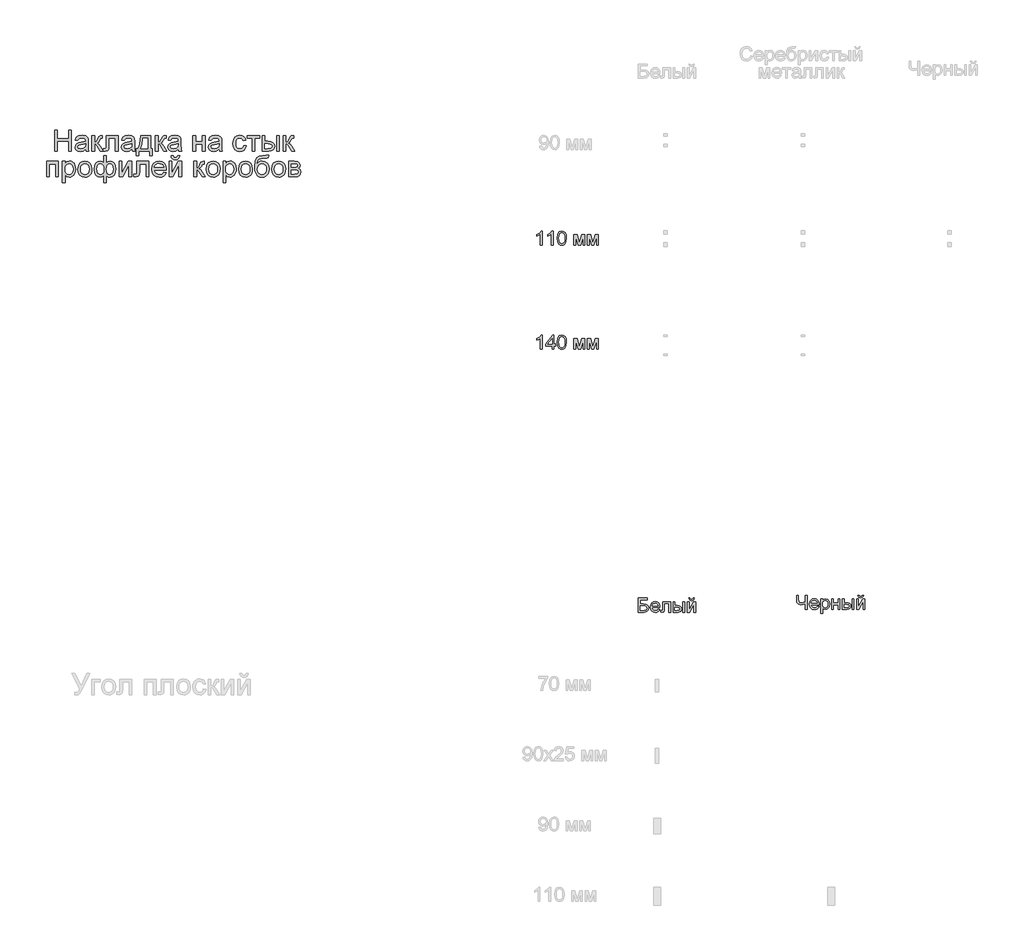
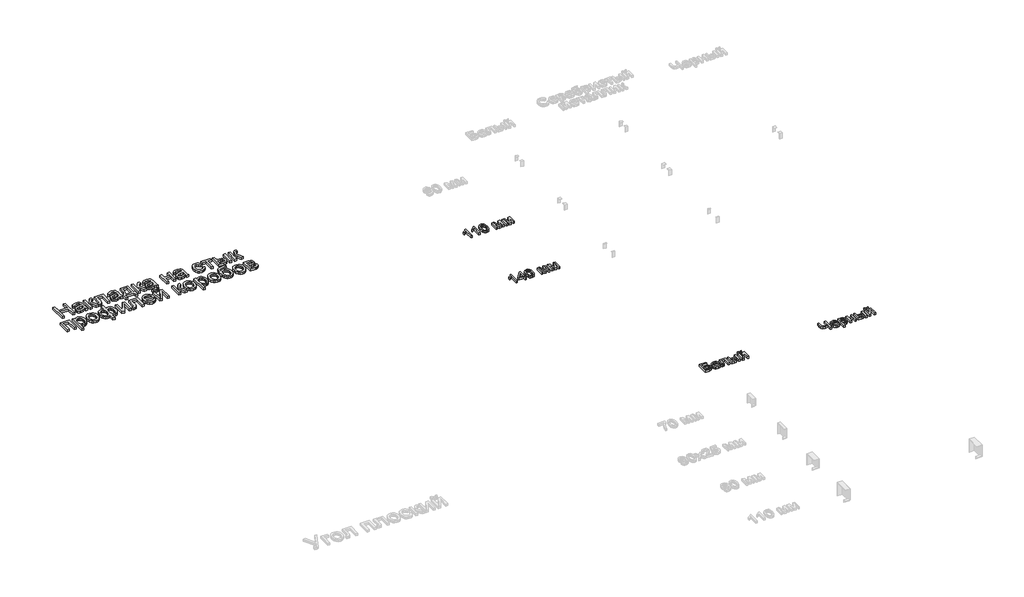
# One storey, part 13 of 48: 5 proxies.
"""IFC4 building model written with IfcOpenShell, lengths in millimetres."""

from ifc_helpers import new_model, si_unit, origin, origin_with_axes, place, context, project, spatial, polyline, outline, extrude, element, save

model = new_model("IFC4")

# Units and contexts
model_context = context("Model", 3, world=origin())
ifc_project = project(units=[si_unit("LENGTHUNIT", "METRE", prefix="MILLI")], contexts=[model_context])

# Site, building, storey
site = spatial("IfcSite", under=ifc_project)
building = spatial("IfcBuilding", under=site)
storey = spatial("IfcBuildingStorey", under=building, Name="Этаж 01", Elevation=0.0)

# Proxies
placement = place(None, origin())
element("IfcBuildingElementProxy", 1, Name="150 мм Arial", ObjectType="150 мм Arial", at=placement, inside=storey, context=model_context, shape_type="SweptSolid", body=[
    extrude(outline(polyline([(8761.3828031, -486.1518243), (8761.3828031, -335.467359), (8780.2183612, -335.467359), (8780.2183612, -396.682923), (8860.2694834, -396.682923), (8860.2694834, -335.467359), (8879.1050415, -335.467359), (8879.1050415, -486.1518243), (8860.2694834, -486.1518243), (8860.2694834, -415.5184812), (8780.2183612, -415.5184812), (8780.2183612, -486.1518243), (8761.3828031, -486.1518243)])), origin_with_axes(), (0.0, 0.0, 1.0), 20.0),
    extrude(outline(polyline([(8980.3461666, -472.0251556), (8962.0808256, -484.7906609), (8941.9024981, -488.506269), (8926.1617473, -486.2713859), (8914.5504718, -479.5667365), (8907.3905685, -469.3856023), (8905.003934, -456.7212646), (8908.6091776, -441.8220438), (8918.0821389, -431.0063132), (8931.2707085, -424.8258957), (8947.5678809, -421.9932043), (8980.235802, -415.5184812), (8980.3461666, -411.3246264), (8979.0493826, -402.9185228), (8975.1590305, -397.418687), (8966.4586213, -393.3351969), (8954.3369096, -391.9740335), (8935.2806222, -395.5976711), (8926.1939369, -408.4551469), (8907.3583788, -406.1007021), (8915.506965, -387.7066023), (8931.914502, -376.9276599), (8956.7649307, -373.1384753), (8979.5920085, -376.4862015), (8992.4862725, -384.8923051), (8998.2620198, -397.6762044), (8999.1817248, -414.1573178), (8999.1817248, -437.5914009), (9000.138218, -470.3145044), (9003.8906143, -486.1518243), (8985.0550562, -486.1518243), (8980.3461666, -472.0251556)]), holes=[polyline([(8980.3461666, -434.3540393), (8949.9591138, -440.1297867), (8933.7539119, -443.1832072), (8926.4146661, -448.1496142), (8923.8394922, -455.3968895), (8929.4496926, -465.5872207), (8945.9124119, -469.6707109), (8964.9686992, -465.1641564), (8977.2559579, -454.2564553), (8980.235802, -439.6883283), (8980.3461666, -434.3540393)])]), origin_with_axes(), (0.0, 0.0, 1.0), 20.0),
    extrude(outline(polyline([(9126.3217423, -375.4929201), (9211.081754, -375.4929201), (9211.081754, -486.0414597), (9192.2461958, -486.0414597), (9192.2461958, -394.3284783), (9145.1573005, -394.3284783), (9145.1573005, -447.1195446), (9143.8881076, -471.4733326), (9136.9167438, -481.7556344), (9120.4356304, -486.1518243), (9105.1317394, -485.1953311), (9105.1317394, -467.3162661), (9113.5562371, -467.3162661), (9122.0727053, -466.1574378), (9125.4756137, -462.4786179), (9126.3217423, -446.0526868), (9126.3217423, -375.4929201)])), origin_with_axes(), (0.0, 0.0, 1.0), 20.0),
    extrude(outline(polyline([(9025.0806172, -375.4929201), (9043.9161754, -375.4929201), (9043.9161754, -422.5818155), (9056.5345278, -419.1973011), (9066.8720119, -399.4788262), (9075.4620565, -382.4642839), (9083.0404256, -376.9276599), (9096.8176063, -375.4929201), (9100.4228498, -375.4929201), (9100.4228498, -394.4388429), (9095.3460783, -394.3284783), (9086.1490284, -396.315041), (9079.6743053, -408.7126643), (9072.0775421, -422.121963), (9061.4273584, -428.6886566), (9073.3099468, -436.0187054), (9084.971806, -451.4605521), (9105.1317394, -486.1518243), (9083.7210073, -486.1518243), (9063.9657441, -452.1963161), (9054.0329303, -437.8305242), (9043.9161754, -434.3540393), (9043.9161754, -486.1518243), (9025.0806172, -486.1518243), (9025.0806172, -375.4929201)])), origin_with_axes(), (0.0, 0.0, 1.0), 20.0),
    extrude(outline(polyline([(9309.9684343, -472.0251556), (9291.7030932, -484.7906609), (9271.5247658, -488.506269), (9255.7840149, -486.2713859), (9244.1727395, -479.5667365), (9237.0128361, -469.3856023), (9234.6262017, -456.7212646), (9238.2314452, -441.8220438), (9247.7044066, -431.0063132), (9260.8929761, -424.8258957), (9277.1901485, -421.9932043), (9309.8580697, -415.5184812), (9309.9684343, -411.3246264), (9308.6716503, -402.9185228), (9304.7812982, -397.418687), (9296.080889, -393.3351969), (9283.9591772, -391.9740335), (9264.9028899, -395.5976711), (9255.8162046, -408.4551469), (9236.9806465, -406.1007021), (9245.1292326, -387.7066023), (9261.5367696, -376.9276599), (9286.3871984, -373.1384753), (9309.2142762, -376.4862015), (9322.1085401, -384.8923051), (9327.8842875, -397.6762044), (9328.8039925, -414.1573178), (9328.8039925, -437.5914009), (9329.7604856, -470.3145044), (9333.512882, -486.1518243), (9314.6773238, -486.1518243), (9309.9684343, -472.0251556)]), holes=[polyline([(9309.9684343, -434.3540393), (9279.5813815, -440.1297867), (9263.3761796, -443.1832072), (9256.0369338, -448.1496142), (9253.4617598, -455.3968895), (9259.0719603, -465.5872207), (9275.5346796, -469.6707109), (9294.5909669, -465.1641564), (9306.8782255, -454.2564553), (9309.8580697, -439.6883283), (9309.9684343, -434.3540393)])]), origin_with_axes(), (0.0, 0.0, 1.0), 20.0),
    extrude(outline(polyline([(9371.1839983, -375.4929201), (9441.8173414, -375.4929201), (9441.8173414, -467.3162661), (9455.94401, -467.3162661), (9455.94401, -516.7596063), (9437.1084518, -516.7596063), (9437.1084518, -486.1518243), (9359.4117745, -486.1518243), (9359.4117745, -516.7596063), (9340.5762163, -516.7596063), (9340.5762163, -467.3162661), (9352.3484401, -467.3162661), (9360.9062951, -451.8514267), (9366.8981731, -431.3925893), (9371.1839983, -375.4929201)]), holes=[polyline([(9387.6651117, -394.3284783), (9383.2505277, -437.241913), (9373.5384431, -467.3162661), (9422.9817832, -467.3162661), (9422.9817832, -394.3284783), (9387.6651117, -394.3284783)])]), origin_with_axes(), (0.0, 0.0, 1.0), 20.0),
    extrude(outline(polyline([(9477.1340129, -375.4929201), (9495.9695711, -375.4929201), (9495.9695711, -422.5818155), (9508.5879235, -419.1973011), (9518.9254076, -399.4788262), (9527.5154521, -382.4642839), (9535.0938212, -376.9276599), (9548.871002, -375.4929201), (9552.4762455, -375.4929201), (9552.4762455, -394.4388429), (9547.399474, -394.3284783), (9538.2024241, -396.315041), (9531.727701, -408.7126643), (9524.1309378, -422.121963), (9513.480754, -428.6886566), (9525.3633425, -436.0187054), (9537.0252017, -451.4605521), (9557.1851351, -486.1518243), (9535.7744029, -486.1518243), (9516.0191398, -452.1963161), (9506.0863259, -437.8305242), (9495.9695711, -434.3540393), (9495.9695711, -486.1518243), (9477.1340129, -486.1518243), (9477.1340129, -375.4929201)])), origin_with_axes(), (0.0, 0.0, 1.0), 20.0),
    extrude(outline(polyline([(9639.590702, -472.0251556), (9621.3253609, -484.7906609), (9601.1470335, -488.506269), (9585.4062826, -486.2713859), (9573.7950071, -479.5667365), (9566.6351038, -469.3856023), (9564.2484694, -456.7212646), (9567.8537129, -441.8220438), (9577.3266743, -431.0063132), (9590.5152438, -424.8258957), (9606.8124162, -421.9932043), (9639.4803374, -415.5184812), (9639.590702, -411.3246264), (9638.2939179, -402.9185228), (9634.4035658, -397.418687), (9625.7031567, -393.3351969), (9613.5814449, -391.9740335), (9594.5251576, -395.5976711), (9585.4384723, -408.4551469), (9566.6029141, -406.1007021), (9574.7515003, -387.7066023), (9591.1590373, -376.9276599), (9616.0094661, -373.1384753), (9638.8365439, -376.4862015), (9651.7308078, -384.8923051), (9657.5065551, -397.6762044), (9658.4262601, -414.1573178), (9658.4262601, -437.5914009), (9659.3827533, -470.3145044), (9663.1351497, -486.1518243), (9644.2995915, -486.1518243), (9639.590702, -472.0251556)]), holes=[polyline([(9639.590702, -434.3540393), (9609.2036492, -440.1297867), (9592.9984473, -443.1832072), (9585.6592015, -448.1496142), (9583.0840275, -455.3968895), (9588.6942279, -465.5872207), (9605.1569472, -469.6707109), (9624.2132346, -465.1641564), (9636.5004932, -454.2564553), (9639.4803374, -439.6883283), (9639.590702, -434.3540393)])]), origin_with_axes(), (0.0, 0.0, 1.0), 20.0),
    extrude(outline(polyline([(9743.1862718, -375.4929201), (9762.02183, -375.4929201), (9762.02183, -417.8729259), (9811.4651701, -417.8729259), (9811.4651701, -375.4929201), (9830.3007283, -375.4929201), (9830.3007283, -486.1518243), (9811.4651701, -486.1518243), (9811.4651701, -436.7084841), (9762.02183, -436.7084841), (9762.02183, -486.1518243), (9743.1862718, -486.1518243), (9743.1862718, -375.4929201)])), origin_with_axes(), (0.0, 0.0, 1.0), 20.0),
    extrude(outline(polyline([(9929.1874086, -472.0251556), (9910.9220675, -484.7906609), (9890.7437401, -488.506269), (9875.0029892, -486.2713859), (9863.3917137, -479.5667365), (9856.2318104, -469.3856023), (9853.845176, -456.7212646), (9857.4504195, -441.8220438), (9866.9233809, -431.0063132), (9880.1119504, -424.8258957), (9896.4091228, -421.9932043), (9929.077044, -415.5184812), (9929.1874086, -411.3246264), (9927.8906245, -402.9185228), (9924.0002724, -397.418687), (9915.2998633, -393.3351969), (9903.1781515, -391.9740335), (9884.1218642, -395.5976711), (9875.0351789, -408.4551469), (9856.1996207, -406.1007021), (9864.3482069, -387.7066023), (9880.7557439, -376.9276599), (9905.6061727, -373.1384753), (9928.4332505, -376.4862015), (9941.3275144, -384.8923051), (9947.1032617, -397.6762044), (9948.0229667, -414.1573178), (9948.0229667, -437.5914009), (9948.9794599, -470.3145044), (9952.7318563, -486.1518243), (9933.8962981, -486.1518243), (9929.1874086, -472.0251556)]), holes=[polyline([(9929.1874086, -434.3540393), (9898.8003558, -440.1297867), (9882.5951539, -443.1832072), (9875.2559081, -448.1496142), (9872.6807341, -455.3968895), (9878.2909345, -465.5872207), (9894.7536538, -469.6707109), (9913.8099412, -465.1641564), (9926.0971998, -454.2564553), (9929.077044, -439.6883283), (9929.1874086, -434.3540393)])]), origin_with_axes(), (0.0, 0.0, 1.0), 20.0),
    extrude(outline(polyline([(10103.4163215, -446.1262632), (10122.2518796, -448.4807079), (10117.0003642, -465.2331343), (10107.1319296, -477.8928735), (10093.5754781, -485.8529201), (10077.2599116, -488.506269), (10057.2241385, -484.8044564), (10041.556964, -473.6990187), (10031.4448077, -455.6773995), (10028.0740889, -431.2270424), (10029.5134272, -414.465419), (10033.8314421, -399.9386787), (10041.0971115, -388.2078416), (10051.3794133, -379.8339276), (10063.6804675, -374.8123384), (10077.0023942, -373.1384753), (10092.9178891, -375.4377378), (10105.6420076, -382.3355252), (10114.7700796, -393.4639556), (10119.8974349, -408.4551469), (10101.0618767, -410.8095916), (10092.3246793, -396.7013171), (10077.149547, -391.9740335), (10064.9772515, -394.3008871), (10055.3157506, -401.281448), (10049.0111729, -413.2927951), (10046.909647, -430.7120076), (10048.9651877, -448.3657448), (10055.1318096, -460.4184787), (10064.6185666, -467.3576528), (10076.6345122, -469.6707109), (10086.3879836, -468.226774), (10094.3848185, -463.8949635), (10100.2019526, -456.5649148), (10103.4163215, -446.1262632)])), origin_with_axes(), (0.0, 0.0, 1.0), 20.0),
    extrude(outline(polyline([(10129.315214, -375.4929201), (10218.7841152, -375.4929201), (10218.7841152, -394.3284783), (10183.4674436, -394.3284783), (10183.4674436, -486.1518243), (10164.6318855, -486.1518243), (10164.6318855, -394.3284783), (10129.315214, -394.3284783), (10129.315214, -375.4929201)])), origin_with_axes(), (0.0, 0.0, 1.0), 20.0),
    extrude(outline(polyline([(10338.8607984, -375.4929201), (10357.6963566, -375.4929201), (10357.6963566, -486.1518243), (10338.8607984, -486.1518243), (10338.8607984, -375.4929201)])), origin_with_axes(), (0.0, 0.0, 1.0), 20.0),
    extrude(outline(polyline([(10235.2652286, -375.4929201), (10254.1007867, -375.4929201), (10254.1007867, -415.5184812), (10277.387717, -415.5184812), (10297.5154607, -417.8775245), (10312.4284771, -424.9546544), (10321.6577166, -436.1796537), (10324.7341298, -450.9823055), (10322.1543573, -464.4605821), (10314.4150398, -475.8327343), (10301.0103396, -483.5720518), (10281.434419, -486.1518243), (10235.2652286, -486.1518243), (10235.2652286, -375.4929201)]), holes=[polyline([(10254.1007867, -467.3162661), (10273.4513797, -467.3162661), (10298.4305671, -463.3615347), (10304.0315705, -458.2985587), (10305.8985716, -451.0190937), (10300.3619476, -439.4308109), (10291.482196, -435.6232322), (10275.916189, -434.3540393), (10254.1007867, -434.3540393), (10254.1007867, -467.3162661)])]), origin_with_axes(), (0.0, 0.0, 1.0), 20.0),
    extrude(outline(polyline([(10385.9496938, -375.4929201), (10404.7852519, -375.4929201), (10404.7852519, -422.5818155), (10417.4036044, -419.1973011), (10427.7410884, -399.4788262), (10436.331133, -382.4642839), (10443.9095021, -376.9276599), (10457.6866829, -375.4929201), (10461.2919264, -375.4929201), (10461.2919264, -394.4388429), (10456.2151549, -394.3284783), (10447.018105, -396.315041), (10440.5433819, -408.7126643), (10432.9466187, -422.121963), (10422.2964349, -428.6886566), (10434.1790234, -436.0187054), (10445.8408826, -451.4605521), (10466.0008159, -486.1518243), (10444.5900838, -486.1518243), (10424.8348207, -452.1963161), (10414.9020068, -437.8305242), (10404.7852519, -434.3540393), (10404.7852519, -486.1518243), (10385.9496938, -486.1518243), (10385.9496938, -375.4929201)])), origin_with_axes(), (0.0, 0.0, 1.0), 20.0),
    extrude(outline(polyline([(8702.5216839, -558.4551469), (8787.2816956, -558.4551469), (8787.2816956, -669.114051), (8768.4461374, -669.114051), (8768.4461374, -577.290705), (8721.357242, -577.290705), (8721.357242, -669.114051), (8702.5216839, -669.114051), (8702.5216839, -558.4551469)])), origin_with_axes(), (0.0, 0.0, 1.0), 20.0),
    extrude(outline(polyline([(8815.5350328, -711.4940569), (8815.5350328, -558.4551469), (8834.3705909, -558.4551469), (8834.3705909, -576.922823), (8847.3936136, -561.3062323), (8864.9783729, -556.1007021), (8877.716287, -557.921718), (8888.8539144, -563.3847656), (8897.9222056, -572.1587512), (8904.452111, -583.9125809), (8909.7128235, -612.9384704), (8908.2275, -629.0471032), (8903.7715293, -643.4542819), (8896.4874658, -655.4288408), (8886.5178638, -664.2396146), (8874.9065883, -669.6612755), (8862.6975046, -671.4684958), (8846.3083617, -666.6308476), (8834.3705909, -654.3987712), (8834.3705909, -711.4940569), (8815.5350328, -711.4940569)]), holes=[polyline([(8834.3705909, -614.6675157), (8836.4077375, -631.5532993), (8842.5191771, -643.3623114), (8851.5368845, -650.3152811), (8862.2928344, -652.6329376), (8873.2235282, -650.2325076), (8882.4711618, -643.0312176), (8888.7757395, -630.7899442), (8890.8772654, -613.2695642), (8888.8263233, -596.4757511), (8882.6734969, -584.5011921), (8873.6695851, -577.3274932), (8863.0653866, -574.9362603), (8852.4198013, -577.4792445), (8843.0710001, -585.1081974), (8836.5456932, -597.5839956), (8834.3705909, -614.6675157)])]), origin_with_axes(), (0.0, 0.0, 1.0), 20.0),
    extrude(outline(polyline([(8926.1939369, -613.7845989), (8930.26823, -587.1039572), (8942.4911093, -568.3511725), (8957.5926652, -559.1633197), (8975.6740653, -556.1007021), (8995.4615181, -559.8301058), (9011.2666483, -571.018317), (9021.627125, -588.7824188), (9025.0806172, -612.2394946), (9023.553907, -631.2681908), (9018.9737761, -645.7535443), (9011.4735819, -656.6014647), (9001.1866816, -664.7178612), (8988.9684009, -669.7808371), (8975.6740653, -671.4684958), (8955.6474892, -667.7528876), (8939.8607531, -656.6060632), (8929.610641, -638.4694808), (8926.1939369, -613.7845989)]), holes=[polyline([(8945.0294951, -613.7478107), (8947.2091959, -630.7945427), (8953.7482984, -642.9392471), (8963.5891417, -650.209515), (8975.6740653, -652.6329376), (8987.7038065, -650.1957194), (8997.5262558, -642.8840648), (9004.0653583, -630.578412), (9006.2450591, -613.1591996), (9004.0515627, -596.6091083), (8997.4710735, -584.6299508), (8987.6348287, -577.3596829), (8975.6740653, -574.9362603), (8963.5891417, -577.3504858), (8953.7482984, -584.5931626), (8947.2091959, -596.7102758), (8945.0294951, -613.7478107)])]), origin_with_axes(), (0.0, 0.0, 1.0), 20.0),
    extrude(outline(polyline([(9109.8406289, -518.4295858), (9128.6761871, -518.4295858), (9128.6761871, -569.0869365), (9140.650746, -559.3196696), (9154.6854441, -556.1007021), (9171.171156, -560.1933893), (9183.8400923, -572.4714509), (9191.9105035, -590.9575211), (9194.6006406, -613.6742343), (9191.7035699, -637.0853248), (9183.0123578, -655.5208113), (9170.0169263, -667.4815747), (9154.2071975, -671.4684958), (9142.6924911, -669.6290858), (9128.6761871, -659.5859073), (9128.6761871, -711.4940569), (9109.8406289, -711.4940569), (9109.8406289, -659.5859073), (9097.8108877, -668.4886516), (9083.5738545, -671.4684958), (9067.7917169, -667.6609171), (9054.1432949, -656.2381812), (9044.7071217, -637.7245198), (9041.5617306, -612.6441648), (9044.4082176, -590.562048), (9052.9476784, -572.3610863), (9066.2971963, -560.1657981), (9083.5738545, -556.1007021), (9098.1603756, -559.3196696), (9109.8406289, -569.0869365), (9109.8406289, -518.4295858)]), holes=[polyline([(9128.5658225, -614.1156927), (9130.1339195, -633.1857757), (9134.8382105, -644.778657), (9141.9061433, -650.6693675), (9150.5651658, -652.6329376), (9160.2450608, -650.218712), (9168.3890485, -642.9760353), (9173.921074, -630.6473899), (9175.7650825, -612.9752586), (9174.0636282, -596.2182337), (9168.9592655, -584.3540393), (9161.1877584, -577.290705), (9151.4848708, -574.9362603), (9141.4922761, -577.387274), (9134.3231757, -584.7403154), (9130.0051608, -596.9861873), (9128.5658225, -614.1156927)]), polyline([(9060.3972888, -612.2394946), (9062.282684, -630.7163678), (9067.9388697, -643.1783704), (9076.3909585, -650.2692958), (9086.6640632, -652.6329376), (9096.8865842, -650.2830914), (9104.1568521, -643.2335527), (9108.5024582, -631.4843214), (9109.9509935, -615.0353977), (9108.4288818, -597.4920251), (9103.8625465, -584.9610446), (9096.2243966, -577.4424563), (9085.4868408, -574.9362603), (9075.4068742, -577.3826755), (9067.3870467, -584.7219213), (9062.1447282, -596.4941452), (9060.3972888, -612.2394946)])]), origin_with_axes(), (0.0, 0.0, 1.0), 20.0),
    extrude(outline(polyline([(9218.1450883, -558.4551469), (9236.9806465, -558.4551469), (9236.9806465, -642.8472766), (9283.2602014, -558.4551469), (9307.6139895, -558.4551469), (9307.6139895, -669.114051), (9288.7784314, -669.114051), (9288.7784314, -585.2369561), (9242.793182, -669.114051), (9218.1450883, -669.114051), (9218.1450883, -558.4551469)])), origin_with_axes(), (0.0, 0.0, 1.0), 20.0),
    extrude(outline(polyline([(9345.2851058, -558.4551469), (9430.0451175, -558.4551469), (9430.0451175, -669.0036864), (9411.2095594, -669.0036864), (9411.2095594, -577.290705), (9364.120664, -577.290705), (9364.120664, -630.0817713), (9362.8514711, -654.4355594), (9355.8801073, -664.7178612), (9339.3989939, -669.114051), (9324.0951029, -668.1575578), (9324.0951029, -650.2784929), (9332.5196006, -650.2784929), (9341.0360688, -649.1196646), (9344.4389772, -645.4408446), (9345.2851058, -629.0149135), (9345.2851058, -558.4551469)])), origin_with_axes(), (0.0, 0.0, 1.0), 20.0),
    extrude(outline(polyline([(9535.7744029, -636.1518243), (9554.2420791, -638.506269), (9547.5880135, -652.4214055), (9536.9700194, -662.8232689), (9522.6272201, -669.3071891), (9504.7987389, -671.4684958), (9482.6982281, -667.7390921), (9465.6928829, -656.5508809), (9454.849561, -638.6304292), (9451.2351204, -614.7043039), (9454.8863492, -589.9734368), (9465.8400357, -571.4781695), (9482.6154546, -559.945069), (9503.7318812, -556.1007021), (9524.1907186, -559.9358719), (9540.5384748, -571.4413813), (9551.2576364, -589.8998604), (9554.8306903, -614.5939393), (9554.7203257, -619.6707109), (9470.0706786, -619.6707109), (9473.3310328, -633.7697883), (9480.9048034, -644.1348635), (9491.8354971, -650.5084191), (9505.1666209, -652.6329376), (9523.6342971, -648.6966003), (9535.7744029, -636.1518243)]), holes=[polyline([(9470.0706786, -600.8351527), (9535.9951321, -600.8351527), (9533.4475493, -590.8839447), (9528.4535512, -583.7654281), (9517.4722737, -577.1435522), (9503.6583048, -574.9362603), (9490.9617774, -576.6974953), (9480.463345, -581.9812005), (9473.1654859, -590.2171586), (9470.0706786, -600.8351527)])]), origin_with_axes(), (0.0, 0.0, 1.0), 20.0),
    extrude(outline(polyline([(9573.6662484, -558.4551469), (9592.5018066, -558.4551469), (9592.5018066, -642.8472766), (9638.7813616, -558.4551469), (9663.1351497, -558.4551469), (9663.1351497, -669.114051), (9644.2995915, -669.114051), (9644.2995915, -585.2369561), (9598.3143421, -669.114051), (9573.6662484, -669.114051), (9573.6662484, -558.4551469)])), origin_with_axes(), (0.0, 0.0, 1.0), 20.0),
    extrude(outline(polyline([(9634.8818124, -518.4295858), (9649.0084811, -518.4295858), (9645.9688561, -530.4915167), (9639.8666135, -539.3804654), (9630.9776648, -544.8573086), (9619.5779214, -546.682923), (9607.2078894, -544.8711042), (9597.6153663, -539.4356477), (9591.0578698, -530.5604946), (9587.7929171, -518.4295858), (9601.9195857, -518.4295858), (9607.2170864, -529.0429814), (9617.8856643, -532.5562544), (9629.5843117, -529.153346), (9634.8818124, -518.4295858)])), origin_with_axes(), (0.0, 0.0, 1.0), 20.0),
    extrude(outline(polyline([(9750.2496061, -558.4551469), (9769.0851643, -558.4551469), (9769.0851643, -605.5440423), (9781.7035167, -602.1595279), (9792.0410008, -582.441053), (9800.6310454, -565.4265107), (9808.2094145, -559.8898867), (9821.9865952, -558.4551469), (9825.5918387, -558.4551469), (9825.5918387, -577.4010696), (9820.5150672, -577.290705), (9811.3180173, -579.2772678), (9804.8432942, -591.674891), (9797.246531, -605.0841898), (9786.5963473, -611.6508834), (9798.4789357, -618.9809321), (9810.1407949, -634.4227789), (9830.3007283, -669.114051), (9808.8899962, -669.114051), (9789.134733, -635.1585429), (9779.2019191, -620.792751), (9769.0851643, -617.3162661), (9769.0851643, -669.114051), (9750.2496061, -669.114051), (9750.2496061, -558.4551469)])), origin_with_axes(), (0.0, 0.0, 1.0), 20.0),
    extrude(outline(polyline([(9837.3640626, -613.7845989), (9841.4383557, -587.1039572), (9853.661235, -568.3511725), (9868.7627909, -559.1633197), (9886.8441909, -556.1007021), (9906.6316438, -559.8301058), (9922.436774, -571.018317), (9932.7972507, -588.7824188), (9936.2507429, -612.2394946), (9934.7240326, -631.2681908), (9930.1439018, -645.7535443), (9922.6437076, -656.6014647), (9912.3568073, -664.7178612), (9900.1385265, -669.7808371), (9886.8441909, -671.4684958), (9866.8176148, -667.7528876), (9851.0308787, -656.6060632), (9840.7807666, -638.4694808), (9837.3640626, -613.7845989)]), holes=[polyline([(9856.1996207, -613.7478107), (9858.3793216, -630.7945427), (9864.918424, -642.9392471), (9874.7592674, -650.209515), (9886.8441909, -652.6329376), (9898.8739322, -650.1957194), (9908.6963814, -642.8840648), (9915.2354839, -630.578412), (9917.4151847, -613.1591996), (9915.2216883, -596.6091083), (9908.6411992, -584.6299508), (9898.8049543, -577.3596829), (9886.8441909, -574.9362603), (9874.7592674, -577.3504858), (9864.918424, -584.5931626), (9858.3793216, -596.7102758), (9856.1996207, -613.7478107)])]), origin_with_axes(), (0.0, 0.0, 1.0), 20.0),
    extrude(outline(polyline([(9957.4407458, -711.4940569), (9957.4407458, -558.4551469), (9976.276304, -558.4551469), (9976.276304, -576.922823), (9989.2993266, -561.3062323), (10006.884086, -556.1007021), (10019.622, -557.921718), (10030.7596274, -563.3847656), (10039.8279186, -572.1587512), (10046.357824, -583.9125809), (10051.6185366, -612.9384704), (10050.133213, -629.0471032), (10045.6772424, -643.4542819), (10038.3931788, -655.4288408), (10028.4235768, -664.2396146), (10016.8123013, -669.6612755), (10004.6032176, -671.4684958), (9988.2140747, -666.6308476), (9976.276304, -654.3987712), (9976.276304, -711.4940569), (9957.4407458, -711.4940569)]), holes=[polyline([(9976.276304, -614.6675157), (9978.3134505, -631.5532993), (9984.4248902, -643.3623114), (9993.4425976, -650.3152811), (10004.1985474, -652.6329376), (10015.1292412, -650.2325076), (10024.3768748, -643.0312176), (10030.6814525, -630.7899442), (10032.7829784, -613.2695642), (10030.7320363, -596.4757511), (10024.5792099, -584.5011921), (10015.5752981, -577.3274932), (10004.9710996, -574.9362603), (9994.3255144, -577.4792445), (9984.9767131, -585.1081974), (9978.4514063, -597.5839956), (9976.276304, -614.6675157)])]), origin_with_axes(), (0.0, 0.0, 1.0), 20.0),
    extrude(outline(polyline([(10068.09965, -613.7845989), (10072.1739431, -587.1039572), (10084.3968223, -568.3511725), (10099.4983782, -559.1633197), (10117.5797783, -556.1007021), (10137.3672311, -559.8301058), (10153.1723613, -571.018317), (10163.532838, -588.7824188), (10166.9863303, -612.2394946), (10165.45962, -631.2681908), (10160.8794891, -645.7535443), (10153.379295, -656.6014647), (10143.0923947, -664.7178612), (10130.8741139, -669.7808371), (10117.5797783, -671.4684958), (10097.5532022, -667.7528876), (10081.7664661, -656.6060632), (10071.516354, -638.4694808), (10068.09965, -613.7845989)]), holes=[polyline([(10086.9352081, -613.7478107), (10089.1149089, -630.7945427), (10095.6540114, -642.9392471), (10105.4948548, -650.209515), (10117.5797783, -652.6329376), (10129.6095196, -650.1957194), (10139.4319688, -642.8840648), (10145.9710713, -630.578412), (10148.1507721, -613.1591996), (10145.9572757, -596.6091083), (10139.3767865, -584.6299508), (10129.5405417, -577.3596829), (10117.5797783, -574.9362603), (10105.4948548, -577.3504858), (10095.6540114, -584.5931626), (10089.1149089, -596.7102758), (10086.9352081, -613.7478107)])]), origin_with_axes(), (0.0, 0.0, 1.0), 20.0),
    extrude(outline(polyline([(10265.8730106, -516.075141), (10282.354124, -516.075141), (10277.4980816, -530.7720267), (10267.8963615, -536.0879216), (10244.8301604, -537.2651439), (10213.762526, -541.6061515), (10206.6348123, -547.2531401), (10201.8431493, -555.5120909), (10197.8148415, -580.1233964), (10214.1304079, -562.0971786), (10224.0494262, -557.5998212), (10235.154864, -556.1007021), (10254.7537773, -559.9128793), (10270.6554765, -571.3494108), (10281.1952957, -589.2882566), (10284.7085687, -612.6073766), (10282.9657278, -630.5876091), (10277.7372049, -645.0177803), (10261.2009092, -664.5707084), (10249.906932, -669.7440489), (10235.154864, -671.4684958), (10218.1541173, -669.2474082), (10205.4116047, -662.5841456), (10196.0352123, -652.4581937), (10189.1328264, -639.8490383), (10184.8837893, -620.8617288), (10183.4674436, -591.6013146), (10187.0404975, -555.4615071), (10197.7596592, -533.4207771), (10215.891643, -522.1773836), (10241.7031635, -518.4295858), (10262.6724372, -518.0065215), (10265.8730106, -516.075141)]), holes=[polyline([(10265.8730106, -612.0187654), (10263.8312655, -597.1977195), (10257.7060303, -585.3289266), (10247.8651869, -577.5344268), (10234.6766174, -574.9362603), (10220.9270278, -577.6815796), (10210.7274995, -585.9175378), (10204.4091262, -598.7428239), (10202.3030018, -615.2561269), (10204.6298554, -631.2635922), (10211.6104163, -643.0128235), (10222.0030826, -650.2279091), (10234.5662528, -652.6329376), (10247.1938023, -649.85083), (10257.1909955, -641.5045073), (10263.7025068, -628.5688566), (10265.8730106, -612.0187654)])]), origin_with_axes(), (0.0, 0.0, 1.0), 20.0),
    extrude(outline(polyline([(10303.5441269, -613.7845989), (10307.61842, -587.1039572), (10319.8412993, -568.3511725), (10334.9428552, -559.1633197), (10353.0242552, -556.1007021), (10372.811708, -559.8301058), (10388.6168383, -571.018317), (10398.9773149, -588.7824188), (10402.4308072, -612.2394946), (10400.9040969, -631.2681908), (10396.3239661, -645.7535443), (10388.8237719, -656.6014647), (10378.5368716, -664.7178612), (10366.3185908, -669.7808371), (10353.0242552, -671.4684958), (10332.9976791, -667.7528876), (10317.210943, -656.6060632), (10306.9608309, -638.4694808), (10303.5441269, -613.7845989)]), holes=[polyline([(10322.379685, -613.7478107), (10324.5593858, -630.7945427), (10331.0984883, -642.9392471), (10340.9393317, -650.209515), (10353.0242552, -652.6329376), (10365.0539965, -650.1957194), (10374.8764457, -642.8840648), (10381.4155482, -630.578412), (10383.595249, -613.1591996), (10381.4017526, -596.6091083), (10374.8212634, -584.6299508), (10364.9850186, -577.3596829), (10353.0242552, -574.9362603), (10340.9393317, -577.3504858), (10331.0984883, -584.5931626), (10324.5593858, -596.7102758), (10322.379685, -613.7478107)])]), origin_with_axes(), (0.0, 0.0, 1.0), 20.0),
    extrude(outline(polyline([(10423.6208101, -558.4551469), (10465.1178992, -558.4551469), (10487.8714006, -560.9751385), (10500.673694, -570.2089766), (10506.026377, -586.3038139), (10502.7890155, -599.3820188), (10493.0401426, -608.7078274), (10505.6952832, -618.9165528), (10510.7352666, -636.666859), (10507.5438902, -651.0234539), (10499.9563241, -661.1310117), (10487.944977, -667.1182912), (10471.4822577, -669.114051), (10423.6208101, -669.114051), (10423.6208101, -558.4551469)]), holes=[polyline([(10442.4563683, -600.8351527), (10461.0711972, -600.8351527), (10476.4302705, -599.8786595), (10483.898275, -596.0526868), (10487.1908189, -589.1365053), (10485.746882, -583.5171078), (10481.4150715, -579.9026672), (10461.6598084, -577.290705), (10442.4563683, -577.290705), (10442.4563683, -600.8351527)]), polyline([(10442.4563683, -650.2784929), (10465.5593575, -650.2784929), (10486.0503847, -646.8755844), (10490.2902247, -642.2356727), (10491.8997084, -635.1217547), (10488.6807409, -626.0534635), (10480.2930315, -620.7743569), (10463.7199476, -619.6707109), (10442.4563683, -619.6707109), (10442.4563683, -650.2784929)])]), origin_with_axes(), (0.0, 0.0, 1.0), 20.0),
])
element("IfcBuildingElementProxy", 2, Name="100 мм Arial", ObjectType="100 мм Arial", at=placement, inside=storey, context=model_context, shape_type="SweptSolid", body=[
    extrude(outline(polyline([(12227.5891681, -1154.7127992), (12215.0321294, -1154.7127992), (12215.0321294, -1076.4275106), (12203.1372782, -1084.9010592), (12189.9180518, -1091.2408923), (12189.9180518, -1079.3705666), (12208.3244143, -1067.6228682), (12219.4957643, -1054.256489), (12227.5891681, -1054.256489), (12227.5891681, -1154.7127992)])), origin_with_axes(), (0.0, 0.0, 1.0), 20.0),
    extrude(outline(polyline([(12304.5010306, -1154.7127992), (12291.9439918, -1154.7127992), (12291.9439918, -1076.4275106), (12280.0491407, -1084.9010592), (12266.8299143, -1091.2408923), (12266.8299143, -1079.3705666), (12285.2362768, -1067.6228682), (12296.4076267, -1054.256489), (12304.5010306, -1054.256489), (12304.5010306, -1154.7127992)])), origin_with_axes(), (0.0, 0.0, 1.0), 20.0),
    extrude(outline(polyline([(12334.3239977, -1105.2939845), (12338.0150804, -1076.3907224), (12348.9779638, -1059.725668), (12367.2862244, -1054.256489), (12381.9524533, -1057.4938506), (12392.0814709, -1066.8257905), (12397.9675828, -1081.6882232), (12400.2484512, -1105.2939845), (12396.5941567, -1134.0746193), (12385.6680615, -1150.7764618), (12377.4367018, -1154.9059372), (12367.2862244, -1156.282429), (12354.2386764, -1153.8911961), (12344.3303879, -1146.7174972), (12336.8255952, -1129.7274804), (12334.3239977, -1105.2939845)]), holes=[polyline([(12346.8810364, -1105.269459), (12348.3525644, -1125.0216565), (12352.7671484, -1136.4535895), (12359.3399734, -1141.9074401), (12367.2862244, -1143.7253903), (12375.2324755, -1141.9013087), (12381.8053005, -1136.429064), (12386.2198845, -1124.9909997), (12387.6914124, -1105.269459), (12386.2689354, -1085.9617857), (12382.0015043, -1074.4409478), (12375.440942, -1068.7203828), (12367.1390716, -1066.8135278), (12359.2786597, -1068.4935223), (12352.9633521, -1073.5335056), (12348.4016154, -1085.7717133), (12346.8810364, -1105.269459)])]), origin_with_axes(), (0.0, 0.0, 1.0), 20.0),
    extrude(outline(polyline([(12453.615866, -1080.9401964), (12475.2228018, -1080.9401964), (12491.8755935, -1139.9975194), (12509.8282348, -1080.9401964), (12530.5277284, -1080.9401964), (12530.5277284, -1154.7127992), (12517.9706897, -1154.7127992), (12517.9706897, -1095.3121197), (12499.9199464, -1154.7127992), (12483.4388331, -1154.7127992), (12466.1729048, -1092.4671656), (12466.1729048, -1154.7127992), (12453.615866, -1154.7127992), (12453.615866, -1080.9401964)])), origin_with_axes(), (0.0, 0.0, 1.0), 20.0),
    extrude(outline(polyline([(12549.3632866, -1080.9401964), (12570.9702224, -1080.9401964), (12587.6230141, -1139.9975194), (12605.5756555, -1080.9401964), (12626.2751491, -1080.9401964), (12626.2751491, -1154.7127992), (12613.7181103, -1154.7127992), (12613.7181103, -1095.3121197), (12595.6673671, -1154.7127992), (12579.1862537, -1154.7127992), (12561.9203254, -1092.4671656), (12561.9203254, -1154.7127992), (12549.3632866, -1154.7127992), (12549.3632866, -1080.9401964)])), origin_with_axes(), (0.0, 0.0, 1.0), 20.0),
])
element("IfcBuildingElementProxy", 3, Name="100 мм Arial", ObjectType="100 мм Arial", at=placement, inside=storey, context=model_context, shape_type="SweptSolid", body=[
    extrude(outline(polyline([(12227.5891681, -1894.7127992), (12215.0321294, -1894.7127992), (12215.0321294, -1816.4275106), (12203.1372782, -1824.9010592), (12189.9180518, -1831.2408923), (12189.9180518, -1819.3705666), (12208.3244143, -1807.6228682), (12219.4957643, -1794.256489), (12227.5891681, -1794.256489), (12227.5891681, -1894.7127992)])), origin_with_axes(), (0.0, 0.0, 1.0), 20.0),
    extrude(outline(polyline([(12298.2225112, -1894.7127992), (12298.2225112, -1871.1683515), (12252.7032457, -1871.1683515), (12252.7032457, -1858.6113127), (12301.3617709, -1795.8261189), (12310.77955, -1795.8261189), (12310.77955, -1858.6113127), (12323.3365888, -1858.6113127), (12323.3365888, -1871.1683515), (12310.77955, -1871.1683515), (12310.77955, -1894.7127992), (12298.2225112, -1894.7127992)]), holes=[polyline([(12298.2225112, -1858.6113127), (12298.2225112, -1819.812025), (12268.1542895, -1858.6113127), (12298.2225112, -1858.6113127)])]), origin_with_axes(), (0.0, 0.0, 1.0), 20.0),
    extrude(outline(polyline([(12334.3239977, -1845.2939845), (12338.0150804, -1816.3907224), (12348.9779638, -1799.725668), (12367.2862244, -1794.256489), (12381.9524533, -1797.4938506), (12392.0814709, -1806.8257905), (12397.9675828, -1821.6882232), (12400.2484512, -1845.2939845), (12396.5941567, -1874.0746193), (12385.6680615, -1890.7764618), (12377.4367018, -1894.9059372), (12367.2862244, -1896.282429), (12354.2386764, -1893.8911961), (12344.3303879, -1886.7174972), (12336.8255952, -1869.7274804), (12334.3239977, -1845.2939845)]), holes=[polyline([(12346.8810364, -1845.269459), (12348.3525644, -1865.0216565), (12352.7671484, -1876.4535895), (12359.3399734, -1881.9074401), (12367.2862244, -1883.7253903), (12375.2324755, -1881.9013087), (12381.8053005, -1876.429064), (12386.2198845, -1864.9909997), (12387.6914124, -1845.269459), (12386.2689354, -1825.9617857), (12382.0015043, -1814.4409478), (12375.440942, -1808.7203828), (12367.1390716, -1806.8135278), (12359.2786597, -1808.4935223), (12352.9633521, -1813.5335056), (12348.4016154, -1825.7717133), (12346.8810364, -1845.269459)])]), origin_with_axes(), (0.0, 0.0, 1.0), 20.0),
    extrude(outline(polyline([(12453.615866, -1820.9401964), (12475.2228018, -1820.9401964), (12491.8755935, -1879.9975194), (12509.8282348, -1820.9401964), (12530.5277284, -1820.9401964), (12530.5277284, -1894.7127992), (12517.9706897, -1894.7127992), (12517.9706897, -1835.3121197), (12499.9199464, -1894.7127992), (12483.4388331, -1894.7127992), (12466.1729048, -1832.4671656), (12466.1729048, -1894.7127992), (12453.615866, -1894.7127992), (12453.615866, -1820.9401964)])), origin_with_axes(), (0.0, 0.0, 1.0), 20.0),
    extrude(outline(polyline([(12549.3632866, -1820.9401964), (12570.9702224, -1820.9401964), (12587.6230141, -1879.9975194), (12605.5756555, -1820.9401964), (12626.2751491, -1820.9401964), (12626.2751491, -1894.7127992), (12613.7181103, -1894.7127992), (12613.7181103, -1835.3121197), (12595.6673671, -1894.7127992), (12579.1862537, -1894.7127992), (12561.9203254, -1832.4671656), (12561.9203254, -1894.7127992), (12549.3632866, -1894.7127992), (12549.3632866, -1820.9401964)])), origin_with_axes(), (0.0, 0.0, 1.0), 20.0),
])
element("IfcBuildingElementProxy", 4, Name="100 мм Arial", ObjectType="100 мм Arial", at=placement, inside=storey, context=model_context, shape_type="SweptSolid", body=[
    extrude(outline(polyline([(12911.066508, -3666.1711167), (12973.8517019, -3666.1711167), (12973.8517019, -3678.7281555), (12923.6235468, -3678.7281555), (12923.6235468, -3708.5511226), (12947.143469, -3708.5511226), (12967.8674881, -3711.1017711), (12980.2037976, -3720.7402794), (12984.8391108, -3737.2213927), (12981.5404356, -3751.5320024), (12971.6934608, -3762.4090467), (12949.3998119, -3766.6274269), (12911.066508, -3766.6274269), (12911.066508, -3666.1711167)]), holes=[polyline([(12923.6235468, -3754.0703881), (12950.5279834, -3754.0703881), (12966.8374185, -3749.9255843), (12970.9209086, -3744.7445795), (12972.282072, -3737.4911729), (12969.1673378, -3727.6564609), (12960.4975854, -3722.4080111), (12941.5761881, -3721.1081614), (12923.6235468, -3721.1081614), (12923.6235468, -3754.0703881)])]), origin_with_axes(), (0.0, 0.0, 1.0), 20.0),
    extrude(outline(polyline([(13052.1860414, -3744.652609), (13064.4978255, -3746.2222389), (13060.0617817, -3755.4989965), (13052.983119, -3762.4335721), (13043.4212528, -3766.7561856), (13031.5355987, -3768.1970567), (13016.8019248, -3765.7107876), (13005.465028, -3758.2519801), (12998.2361468, -3746.3050123), (12995.8265197, -3730.3542622), (12998.2606722, -3713.8670174), (13005.5631298, -3701.5368392), (13016.7467425, -3693.8481055), (13030.8243602, -3691.2851943), (13044.4635851, -3693.8419741), (13055.3620893, -3701.5123137), (13062.508197, -3713.8179665), (13064.8902329, -3730.2806858), (13064.8166565, -3733.6652001), (13008.3835585, -3733.6652001), (13010.5571279, -3743.0645851), (13015.6063083, -3749.9746352), (13022.8934375, -3754.2236723), (13031.7808534, -3755.640018), (13044.0926375, -3753.0157931), (13052.1860414, -3744.652609)]), holes=[polyline([(13008.3835585, -3721.1081614), (13052.3331942, -3721.1081614), (13047.3054736, -3709.728345), (13039.9846219, -3705.313761), (13030.7753092, -3703.842233), (13015.3120027, -3708.5388599), (13010.4467633, -3714.0294986), (13008.3835585, -3721.1081614)])]), origin_with_axes(), (0.0, 0.0, 1.0), 20.0),
    extrude(outline(polyline([(13083.7257911, -3692.8548241), (13140.2324655, -3692.8548241), (13140.2324655, -3766.5538505), (13127.6754268, -3766.5538505), (13127.6754268, -3705.4118629), (13096.2828298, -3705.4118629), (13096.2828298, -3740.6059071), (13095.4367013, -3756.8417658), (13090.7891254, -3763.6966337), (13079.8017165, -3766.6274269), (13069.5991225, -3765.9897648), (13069.5991225, -3754.0703881), (13075.2154543, -3754.0703881), (13080.8930997, -3753.2978359), (13083.1617054, -3750.8452893), (13083.7257911, -3739.8946686), (13083.7257911, -3692.8548241)])), origin_with_axes(), (0.0, 0.0, 1.0), 20.0),
    extrude(outline(polyline([(13228.1317369, -3692.8548241), (13240.6887757, -3692.8548241), (13240.6887757, -3766.6274269), (13228.1317369, -3766.6274269), (13228.1317369, -3692.8548241)])), origin_with_axes(), (0.0, 0.0, 1.0), 20.0),
    extrude(outline(polyline([(13159.0680237, -3692.8548241), (13171.6250625, -3692.8548241), (13171.6250625, -3719.5385315), (13187.1496827, -3719.5385315), (13200.5681784, -3721.111227), (13210.5101894, -3725.8293136), (13216.6630157, -3733.3126465), (13218.7139578, -3743.1810811), (13216.9941095, -3752.1665988), (13211.8345645, -3759.7480336), (13202.8980977, -3764.9075786), (13189.847484, -3766.6274269), (13159.0680237, -3766.6274269), (13159.0680237, -3692.8548241)]), holes=[polyline([(13171.6250625, -3754.0703881), (13184.5254578, -3754.0703881), (13201.1782494, -3751.4339005), (13206.1569191, -3743.2056065), (13202.4658364, -3735.4800846), (13186.168664, -3732.0955703), (13171.6250625, -3732.0955703), (13171.6250625, -3754.0703881)])]), origin_with_axes(), (0.0, 0.0, 1.0), 20.0),
    extrude(outline(polyline([(13259.5243338, -3692.8548241), (13272.0813726, -3692.8548241), (13272.0813726, -3749.1162439), (13302.9344093, -3692.8548241), (13319.170268, -3692.8548241), (13319.170268, -3766.6274269), (13306.6132292, -3766.6274269), (13306.6132292, -3710.7093636), (13275.9563963, -3766.6274269), (13259.5243338, -3766.6274269), (13259.5243338, -3692.8548241)])), origin_with_axes(), (0.0, 0.0, 1.0), 20.0),
    extrude(outline(polyline([(13300.3347098, -3666.1711167), (13309.7524889, -3666.1711167), (13303.6579105, -3680.1383698), (13290.1321158, -3685.0066749), (13275.4904124, -3680.175158), (13268.9421129, -3666.1711167), (13278.359892, -3666.1711167), (13281.8915591, -3673.2467138), (13289.0039444, -3675.5888958), (13296.8030427, -3673.3202902), (13300.3347098, -3666.1711167)])), origin_with_axes(), (0.0, 0.0, 1.0), 20.0),
])
element("IfcBuildingElementProxy", 5, Name="100 мм Arial", ObjectType="100 мм Arial", at=placement, inside=storey, context=model_context, shape_type="SweptSolid", body=[
    extrude(outline(polyline([(14111.6331218, -3746.129378), (14099.076083, -3746.129378), (14099.076083, -3705.9076132), (14067.9777917, -3713.1671512), (14049.6204802, -3708.2007443), (14038.9764278, -3695.5946546), (14036.2908892, -3675.5941368), (14036.2908892, -3645.6730678), (14048.847928, -3645.6730678), (14048.847928, -3673.9018796), (14050.3562442, -3687.4797909), (14054.8811927, -3695.4475018), (14069.3757433, -3700.6101125), (14099.076083, -3694.380644), (14099.076083, -3645.6730678), (14111.6331218, -3645.6730678), (14111.6331218, -3746.129378)])), origin_with_axes(), (0.0, 0.0, 1.0), 20.0),
    extrude(outline(polyline([(14183.6889419, -3724.1545601), (14196.000726, -3725.72419), (14191.5646823, -3735.0009476), (14184.4860196, -3741.9355232), (14174.9241534, -3746.2581367), (14163.0384993, -3747.6990078), (14148.3048254, -3745.2127387), (14136.9679286, -3737.7539312), (14129.7390473, -3725.8069634), (14127.3294203, -3709.8562133), (14129.7635728, -3693.3689685), (14137.0660304, -3681.0387903), (14148.2496431, -3673.3500566), (14162.3272608, -3670.7871454), (14175.9664857, -3673.3439252), (14186.8649898, -3681.0142648), (14194.0110976, -3693.3199176), (14196.3931335, -3709.7826369), (14196.3195571, -3713.1671512), (14139.886459, -3713.1671512), (14142.0600285, -3722.5665362), (14147.1092089, -3729.4765863), (14154.3963381, -3733.7256234), (14163.2837539, -3735.1419691), (14175.595538, -3732.5177442), (14183.6889419, -3724.1545601)]), holes=[polyline([(14139.886459, -3700.6101125), (14183.8360947, -3700.6101125), (14178.8083741, -3689.2302961), (14171.4875224, -3684.8157121), (14162.2782098, -3683.3441841), (14146.8149033, -3688.0408109), (14141.9496639, -3693.5314497), (14139.886459, -3700.6101125)])]), origin_with_axes(), (0.0, 0.0, 1.0), 20.0),
    extrude(outline(polyline([(14208.9501723, -3774.3827152), (14208.9501723, -3672.3567752), (14221.507211, -3672.3567752), (14221.507211, -3684.6685593), (14230.1892261, -3674.2574989), (14241.912399, -3670.7871454), (14257.8294267, -3675.6431877), (14268.2282244, -3689.3283979), (14271.7353661, -3708.6789909), (14267.7745033, -3729.0228652), (14256.2720596, -3742.8797537), (14240.3918201, -3747.6990078), (14229.4657249, -3744.473909), (14221.507211, -3736.3191915), (14221.507211, -3774.3827152), (14208.9501723, -3774.3827152)]), holes=[polyline([(14221.507211, -3709.8316878), (14222.8653087, -3721.0888768), (14226.9396018, -3728.9615515), (14232.9514068, -3733.5968647), (14240.12204, -3735.1419691), (14247.4091692, -3733.5416824), (14253.5742583, -3728.7408223), (14257.7773101, -3720.5799734), (14259.1783274, -3708.8997201), (14257.8110326, -3697.7038447), (14253.7091484, -3689.7208054), (14247.7065405, -3684.9383395), (14240.6370748, -3683.3441841), (14233.540018, -3685.039507), (14227.3074838, -3690.1254756), (14222.9572792, -3698.4426744), (14221.507211, -3709.8316878)])]), origin_with_axes(), (0.0, 0.0, 1.0), 20.0),
    extrude(outline(polyline([(14285.8620347, -3672.3567752), (14298.4190735, -3672.3567752), (14298.4190735, -3700.6101125), (14331.3813003, -3700.6101125), (14331.3813003, -3672.3567752), (14343.938339, -3672.3567752), (14343.938339, -3746.129378), (14331.3813003, -3746.129378), (14331.3813003, -3713.1671512), (14298.4190735, -3713.1671512), (14298.4190735, -3746.129378), (14285.8620347, -3746.129378), (14285.8620347, -3672.3567752)])), origin_with_axes(), (0.0, 0.0, 1.0), 20.0),
    extrude(outline(polyline([(14431.8376104, -3672.3567752), (14444.3946492, -3672.3567752), (14444.3946492, -3746.129378), (14431.8376104, -3746.129378), (14431.8376104, -3672.3567752)])), origin_with_axes(), (0.0, 0.0, 1.0), 20.0),
    extrude(outline(polyline([(14362.7738972, -3672.3567752), (14375.330936, -3672.3567752), (14375.330936, -3699.0404826), (14390.8555562, -3699.0404826), (14404.2740519, -3700.6131781), (14414.2160629, -3705.3312647), (14420.3688892, -3712.8145976), (14422.4198313, -3722.6830322), (14420.699983, -3731.6685499), (14415.540438, -3739.2499847), (14406.6039712, -3744.4095297), (14393.5533575, -3746.129378), (14362.7738972, -3746.129378), (14362.7738972, -3672.3567752)]), holes=[polyline([(14375.330936, -3733.5723392), (14388.2313313, -3733.5723392), (14404.8841229, -3730.9358516), (14409.8627926, -3722.7075576), (14406.1717099, -3714.9820357), (14389.8745375, -3711.5975214), (14375.330936, -3711.5975214), (14375.330936, -3733.5723392)])]), origin_with_axes(), (0.0, 0.0, 1.0), 20.0),
    extrude(outline(polyline([(14463.2302073, -3672.3567752), (14475.7872461, -3672.3567752), (14475.7872461, -3728.618195), (14506.6402828, -3672.3567752), (14522.8761415, -3672.3567752), (14522.8761415, -3746.129378), (14510.3191027, -3746.129378), (14510.3191027, -3690.2113147), (14479.6622698, -3746.129378), (14463.2302073, -3746.129378), (14463.2302073, -3672.3567752)])), origin_with_axes(), (0.0, 0.0, 1.0), 20.0),
    extrude(outline(polyline([(14504.0405833, -3645.6730678), (14513.4583624, -3645.6730678), (14507.363784, -3659.6403209), (14493.8379893, -3664.508626), (14479.1962859, -3659.6771091), (14472.6479864, -3645.6730678), (14482.0657655, -3645.6730678), (14485.5974326, -3652.7486649), (14492.7098179, -3655.0908469), (14500.5089162, -3652.8222413), (14504.0405833, -3645.6730678)])), origin_with_axes(), (0.0, 0.0, 1.0), 20.0),
])

save(model, "model.ifc")
